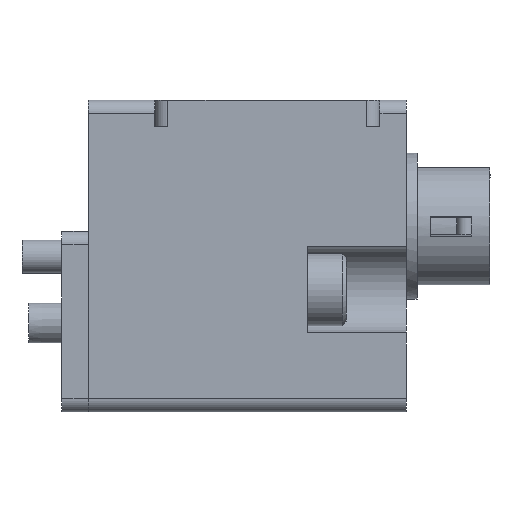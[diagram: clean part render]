
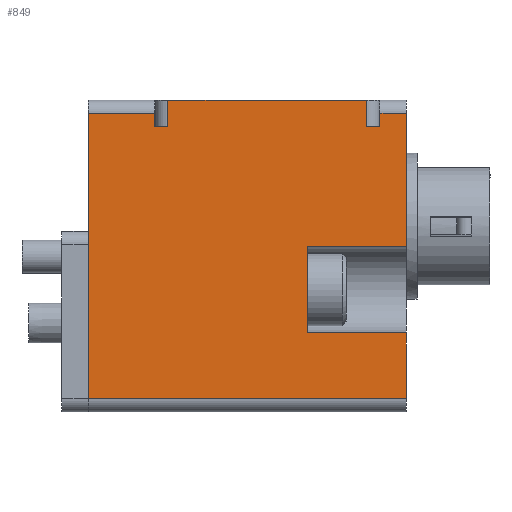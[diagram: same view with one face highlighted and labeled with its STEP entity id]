
A CAD part, left-side view. The second image highlights one B-rep face of the part: STEP entity #849.
In plain terms, the highlighted planar face has unit normal (-1, 0, 0).
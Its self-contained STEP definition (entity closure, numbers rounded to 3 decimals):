
#849=ADVANCED_FACE('',(#2484),#2485,.F.);
#2484=FACE_OUTER_BOUND('',#4963,.T.);
#2485=PLANE('',#4964);
#4963=EDGE_LOOP('',(#8019,#8020,#8021,#8022,#8023,#8024,#8025,#8026,#8027,#8028,#8029,#8030,#8031,#8032,#8033,#8034));
#4964=AXIS2_PLACEMENT_3D('',#8035,#8036,#8037);
#8019=ORIENTED_EDGE('',*,*,#12777,.T.);
#8020=ORIENTED_EDGE('',*,*,#12827,.T.);
#8021=ORIENTED_EDGE('',*,*,#12828,.T.);
#8022=ORIENTED_EDGE('',*,*,#12829,.F.);
#8023=ORIENTED_EDGE('',*,*,#12830,.T.);
#8024=ORIENTED_EDGE('',*,*,#12831,.T.);
#8025=ORIENTED_EDGE('',*,*,#12822,.F.);
#8026=ORIENTED_EDGE('',*,*,#12832,.T.);
#8027=ORIENTED_EDGE('',*,*,#12833,.T.);
#8028=ORIENTED_EDGE('',*,*,#12834,.T.);
#8029=ORIENTED_EDGE('',*,*,#12835,.T.);
#8030=ORIENTED_EDGE('',*,*,#12836,.F.);
#8031=ORIENTED_EDGE('',*,*,#12837,.T.);
#8032=ORIENTED_EDGE('',*,*,#12838,.T.);
#8033=ORIENTED_EDGE('',*,*,#12839,.F.);
#8034=ORIENTED_EDGE('',*,*,#12840,.T.);
#8035=CARTESIAN_POINT('',(-16.0,-24.0,-6.7));
#8036=DIRECTION('',(1.0,0.0,0.0));
#8037=DIRECTION('',(0.0,1.0,0.0));
#12777=EDGE_CURVE('',#14160,#14161,#14162,.T.);
#12822=EDGE_CURVE('',#14240,#14241,#14242,.T.);
#12827=EDGE_CURVE('',#14161,#14249,#14250,.T.);
#12828=EDGE_CURVE('',#14249,#14251,#14252,.T.);
#12829=EDGE_CURVE('',#14253,#14251,#14254,.T.);
#12830=EDGE_CURVE('',#14253,#14255,#14256,.T.);
#12831=EDGE_CURVE('',#14255,#14241,#14257,.T.);
#12832=EDGE_CURVE('',#14240,#14258,#14259,.T.);
#12833=EDGE_CURVE('',#14258,#14260,#14261,.T.);
#12834=EDGE_CURVE('',#14260,#14262,#14263,.T.);
#12835=EDGE_CURVE('',#14262,#14264,#14265,.T.);
#12836=EDGE_CURVE('',#14266,#14264,#14267,.T.);
#12837=EDGE_CURVE('',#14266,#14268,#14269,.T.);
#12838=EDGE_CURVE('',#14268,#14270,#14271,.T.);
#12839=EDGE_CURVE('',#14272,#14270,#14273,.T.);
#12840=EDGE_CURVE('',#14272,#14160,#14274,.T.);
#14160=VERTEX_POINT('',#16130);
#14161=VERTEX_POINT('',#16131);
#14162=LINE('',#16132,#16133);
#14240=VERTEX_POINT('',#16242);
#14241=VERTEX_POINT('',#16243);
#14242=LINE('',#16244,#16245);
#14249=VERTEX_POINT('',#16255);
#14250=LINE('',#16256,#16257);
#14251=VERTEX_POINT('',#16258);
#14252=LINE('',#16259,#16260);
#14253=VERTEX_POINT('',#16261);
#14254=LINE('',#16262,#16263);
#14255=VERTEX_POINT('',#16264);
#14256=LINE('',#16265,#16266);
#14257=LINE('',#16267,#16268);
#14258=VERTEX_POINT('',#16269);
#14259=LINE('',#16270,#16271);
#14260=VERTEX_POINT('',#16272);
#14261=LINE('',#16273,#16274);
#14262=VERTEX_POINT('',#16275);
#14263=LINE('',#16276,#16277);
#14264=VERTEX_POINT('',#16278);
#14265=LINE('',#16279,#16280);
#14266=VERTEX_POINT('',#16281);
#14267=LINE('',#16282,#16283);
#14268=VERTEX_POINT('',#16284);
#14269=LINE('',#16285,#16286);
#14270=VERTEX_POINT('',#16287);
#14271=LINE('',#16288,#16289);
#14272=VERTEX_POINT('',#16290);
#14273=LINE('',#16291,#16292);
#14274=LINE('',#16293,#16294);
#16130=CARTESIAN_POINT('',(-16.0,-8.,14.8));
#16131=CARTESIAN_POINT('',(-16.0,-7.0,14.8));
#16132=CARTESIAN_POINT('',(-16.0,-24.0,14.8));
#16133=VECTOR('',#18715,1.0);
#16242=CARTESIAN_POINT('',(-16.0,-18.5,-0.75));
#16243=CARTESIAN_POINT('',(-16.0,-26.0,-0.75));
#16244=CARTESIAN_POINT('',(-16.0,-18.5,-0.75));
#16245=VECTOR('',#18768,1.0);
#16255=CARTESIAN_POINT('',(-16.0,-7.0,15.8));
#16256=CARTESIAN_POINT('',(-16.0,-7.0,-6.7));
#16257=VECTOR('',#18772,1.0);
#16258=CARTESIAN_POINT('',(-16.0,-2.0,15.8));
#16259=CARTESIAN_POINT('',(-16.0,-7.0,15.8));
#16260=VECTOR('',#18773,1.0);
#16261=CARTESIAN_POINT('',(-16.0,-2.0,-5.7));
#16262=CARTESIAN_POINT('',(-16.0,-2.0,-6.7));
#16263=VECTOR('',#18774,1.0);
#16264=CARTESIAN_POINT('',(-16.0,-26.0,-5.7));
#16265=CARTESIAN_POINT('',(-16.0,-24.0,-5.7));
#16266=VECTOR('',#18775,1.0);
#16267=CARTESIAN_POINT('',(-16.0,-26.0,-6.7));
#16268=VECTOR('',#18776,1.0);
#16269=CARTESIAN_POINT('',(-16.0,-18.5,5.75));
#16270=CARTESIAN_POINT('',(-16.0,-18.5,-0.75));
#16271=VECTOR('',#18777,1.0);
#16272=CARTESIAN_POINT('',(-16.0,-26.0,5.75));
#16273=CARTESIAN_POINT('',(-16.0,-18.5,5.75));
#16274=VECTOR('',#18778,1.0);
#16275=CARTESIAN_POINT('',(-16.0,-26.0,15.8));
#16276=CARTESIAN_POINT('',(-16.0,-26.0,-6.7));
#16277=VECTOR('',#18779,1.0);
#16278=CARTESIAN_POINT('',(-16.0,-24.0,15.8));
#16279=CARTESIAN_POINT('',(-16.0,-26.0,15.8));
#16280=VECTOR('',#18780,1.0);
#16281=CARTESIAN_POINT('',(-16.0,-24.0,14.8));
#16282=CARTESIAN_POINT('',(-16.0,-24.0,-6.7));
#16283=VECTOR('',#18781,1.0);
#16284=CARTESIAN_POINT('',(-16.0,-23.0,14.8));
#16285=CARTESIAN_POINT('',(-16.0,-24.0,14.8));
#16286=VECTOR('',#18782,1.0);
#16287=CARTESIAN_POINT('',(-16.0,-23.0,16.8));
#16288=CARTESIAN_POINT('',(-16.0,-23.0,14.8));
#16289=VECTOR('',#18783,1.0);
#16290=CARTESIAN_POINT('',(-16.0,-8.,16.8));
#16291=CARTESIAN_POINT('',(-16.0,-7.,16.8));
#16292=VECTOR('',#18784,1.0);
#16293=CARTESIAN_POINT('',(-16.0,-8.,14.8));
#16294=VECTOR('',#18785,1.0);
#18715=DIRECTION('',(0.0,1.0,0.0));
#18768=DIRECTION('',(0.0,-1.0,0.0));
#18772=DIRECTION('',(0.0,0.0,1.0));
#18773=DIRECTION('',(0.0,1.0,0.0));
#18774=DIRECTION('',(0.0,0.0,1.0));
#18775=DIRECTION('',(0.0,-1.0,0.0));
#18776=DIRECTION('',(0.0,0.0,1.0));
#18777=DIRECTION('',(0.0,0.0,1.0));
#18778=DIRECTION('',(0.0,-1.0,0.0));
#18779=DIRECTION('',(0.0,0.0,1.0));
#18780=DIRECTION('',(0.0,1.0,0.0));
#18781=DIRECTION('',(0.0,0.0,1.0));
#18782=DIRECTION('',(0.0,1.0,0.0));
#18783=DIRECTION('',(0.0,0.0,1.0));
#18784=DIRECTION('',(0.0,-1.0,0.0));
#18785=DIRECTION('',(0.0,0.0,-1.0));
